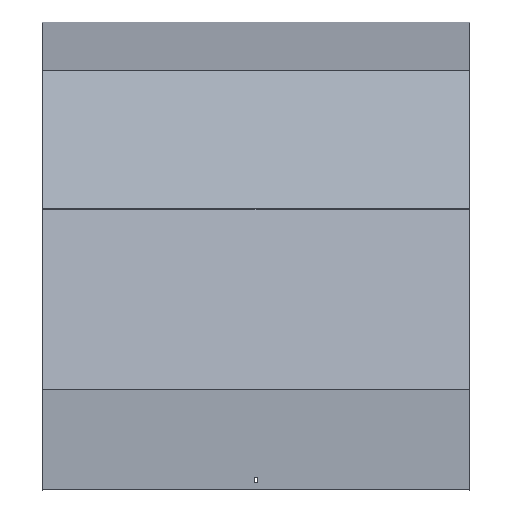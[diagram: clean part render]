
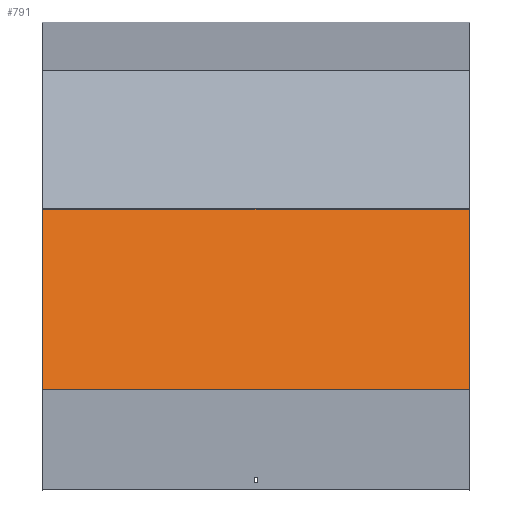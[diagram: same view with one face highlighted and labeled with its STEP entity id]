
A CAD part, top view. The second image highlights one B-rep face of the part: STEP entity #791.
In plain terms, the highlighted planar face has unit normal (0, 0.259, 0.966).
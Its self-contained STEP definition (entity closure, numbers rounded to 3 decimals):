
#24 = VECTOR ( 'NONE', #305, 1000. ) ;
#36 = DIRECTION ( 'NONE',  ( -1., 0., 0. ) ) ;
#49 = ORIENTED_EDGE ( 'NONE', *, *, #449, .F. ) ;
#71 = LINE ( 'NONE', #578, #887 ) ;
#79 = VERTEX_POINT ( 'NONE', #206 ) ;
#85 = CARTESIAN_POINT ( 'NONE',  ( 351.5, -287.651, 690.361 ) ) ;
#94 = EDGE_CURVE ( 'NONE', #436, #688, #535, .T. ) ;
#147 = DIRECTION ( 'NONE',  ( 0., -0.259, -0.966 ) ) ;
#206 = CARTESIAN_POINT ( 'NONE',  ( -351.5, -287.651, 690.361 ) ) ;
#232 = VERTEX_POINT ( 'NONE', #905 ) ;
#305 = DIRECTION ( 'NONE',  ( 0., -0.966, 0.259 ) ) ;
#329 = DIRECTION ( 'NONE',  ( 0., 0.966, -0.259 ) ) ;
#331 = LINE ( 'NONE', #85, #1032 ) ;
#351 = LINE ( 'NONE', #883, #24 ) ;
#355 = EDGE_CURVE ( 'NONE', #79, #688, #71, .T. ) ;
#358 = EDGE_CURVE ( 'NONE', #232, #79, #331, .T. ) ;
#430 = DIRECTION ( 'NONE',  ( -1., 0., 0. ) ) ;
#436 = VERTEX_POINT ( 'NONE', #889 ) ;
#449 = EDGE_CURVE ( 'NONE', #232, #436, #351, .T. ) ;
#508 = DIRECTION ( 'NONE',  ( 0., -0.966, 0.259 ) ) ;
#535 = LINE ( 'NONE', #1044, #921 ) ;
#576 = PLANE ( 'NONE',  #653 ) ;
#578 = CARTESIAN_POINT ( 'NONE',  ( -351.5, -292.828, 691.748 ) ) ;
#620 = ORIENTED_EDGE ( 'NONE', *, *, #355, .T. ) ;
#653 = AXIS2_PLACEMENT_3D ( 'NONE', #916, #147, #329 ) ;
#673 = ORIENTED_EDGE ( 'NONE', *, *, #358, .T. ) ;
#688 = VERTEX_POINT ( 'NONE', #967 ) ;
#764 = ORIENTED_EDGE ( 'NONE', *, *, #94, .F. ) ;
#791 = ADVANCED_FACE ( 'NONE', ( #1097 ), #576, .F. ) ;
#883 = CARTESIAN_POINT ( 'NONE',  ( 351.5, -292.828, 691.748 ) ) ;
#887 = VECTOR ( 'NONE', #508, 1000. ) ;
#889 = CARTESIAN_POINT ( 'NONE',  ( 351.5, -584.183, 769.816 ) ) ;
#905 = CARTESIAN_POINT ( 'NONE',  ( 351.5, -287.651, 690.361 ) ) ;
#916 = CARTESIAN_POINT ( 'NONE',  ( 351.5, -292.828, 691.748 ) ) ;
#921 = VECTOR ( 'NONE', #36, 1000. ) ;
#967 = CARTESIAN_POINT ( 'NONE',  ( -351.5, -584.183, 769.816 ) ) ;
#1008 = EDGE_LOOP ( 'NONE', ( #620, #764, #49, #673 ) ) ;
#1032 = VECTOR ( 'NONE', #430, 1000. ) ;
#1044 = CARTESIAN_POINT ( 'NONE',  ( 351.5, -584.183, 769.816 ) ) ;
#1097 = FACE_OUTER_BOUND ( 'NONE', #1008, .T. ) ;
